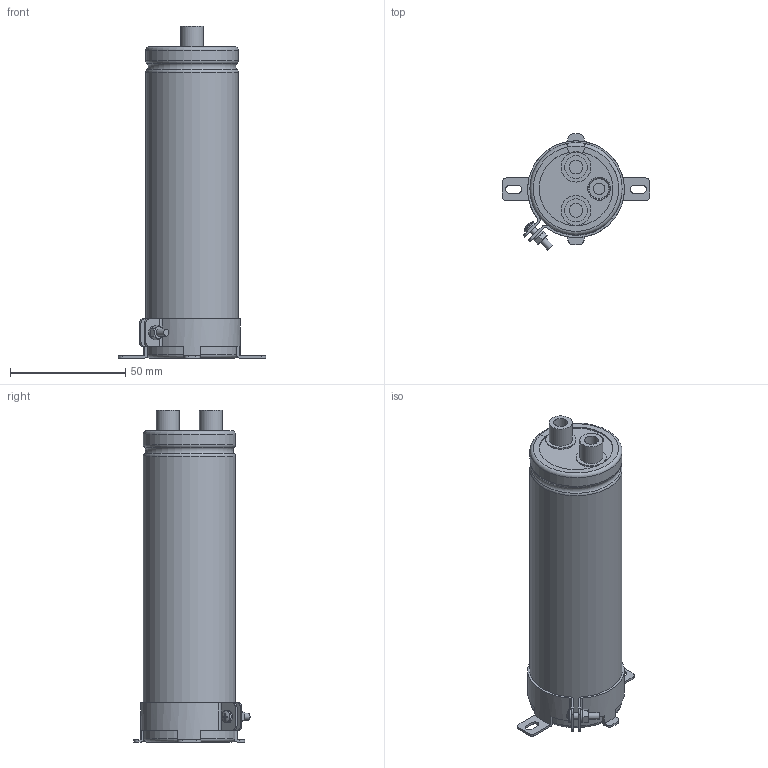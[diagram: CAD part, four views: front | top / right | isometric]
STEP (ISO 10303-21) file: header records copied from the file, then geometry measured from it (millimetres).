
FILE_DESCRIPTION(/* description */ (''),/* implementation_level */ '2;1');
FILE_NAME(/* name */ '40x135_Screw.stp',/* time_stamp */ '2017-09-14T21:37:25+09:00',/* author */ (''),/* organization */ (''),/* preprocessor_version */ 'ST-DEVELOPER v16',/* originating_system */ 'SIEMENS PLM Software NX 11.0',/* authorisation */ '');
FILE_SCHEMA (('AUTOMOTIVE_DESIGN { 1 0 10303 214 3 1 1 1 }'));
Length unit declared in the file: millimetre
Products named in the file (1): 40x135_Screw
Bounding box: 64 x 50.36 x 144 mm (x, y, z)
Volume: 171218.5 mm3; surface area: 60482.6 mm2
Topology: 9 solids, 9 shells, 256 faces, 636 edges, 409 vertices
Faces by surface type: plane 109, cylinder 65, torus 50, cone 31, sphere 1
Full cylindrical faces by diameter (mm): 3 x5, 5 x4, 5.5 x2, 6 x2, 10 x4, 13 x2, 38.8 x2
Entity records: 8385 total; most frequent: CARTESIAN_POINT 2097, DIRECTION 1286, ORIENTED_EDGE 1204, EDGE_CURVE 602, AXIS2_PLACEMENT_3D 541, VERTEX_POINT 404, EDGE_LOOP 310, CIRCLE 284
